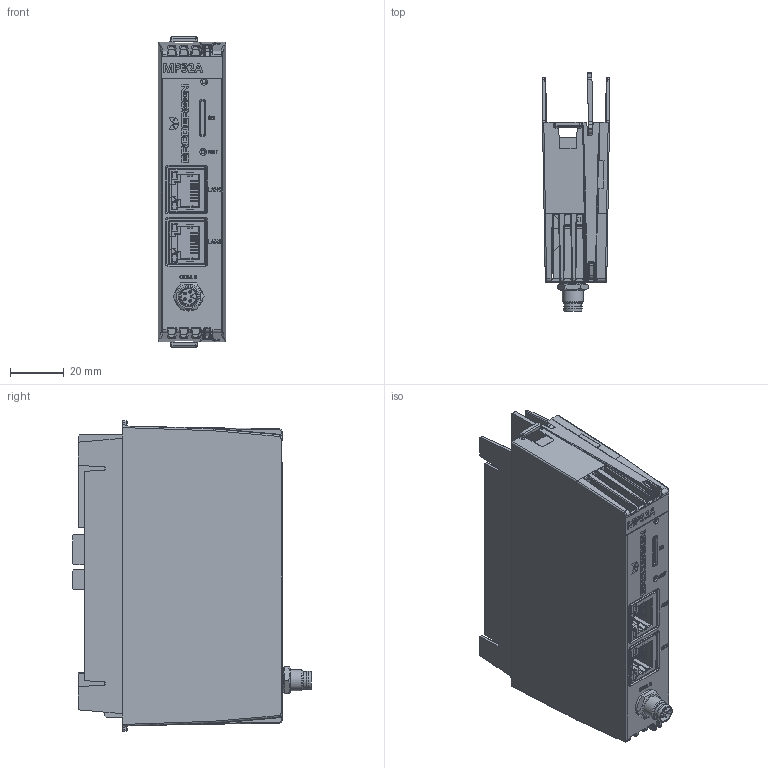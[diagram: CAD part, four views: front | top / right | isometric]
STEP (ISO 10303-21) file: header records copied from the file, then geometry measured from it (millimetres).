
FILE_DESCRIPTION(/* description */ (''),/* implementation_level */ '2;1');
FILE_NAME(/* name */ 'C:\Users\Public\Documents\Autodesk\Inventor 2023\MP32A_REVD_Simplified.stp',/* time_stamp */ '2024-11-20T09:37:03+01:00',/* author */ ('asho'),/* organization */ (''),/* preprocessor_version */ 'ST-DEVELOPER v19',/* originating_system */ 'Autodesk Inventor 2023',/* authorisation */ '');
FILE_SCHEMA (('AUTOMOTIVE_DESIGN { 1 0 10303 214 3 1 1 }'));
Products named in the file (1): MP32A_REVD_Simplified
Bounding box: 24.95 x 88.9 x 115.5 mm (x, y, z)
Volume: 91226.6 mm3; surface area: 59738.1 mm2
Topology: 1 solids, 2 shells, 3761 faces, 10415 edges, 6691 vertices
Faces by surface type: plane 2528, cylinder 756, bspline 341, torus 54, sphere 48, cone 34
Full cylindrical faces by diameter (mm): 0.3 x3, 0.5 x2, 0.75 x2, 0.8 x11, 0.9 x20, 1 x8, 1.02 x8, 1.1 x1, 1.3 x4, 1.6 x1, 1.7 x4, 2.5 x1, 3 x2, 5.8 x1, 6.5 x1, 6.9 x1, 6.917 x1, 7.896 x1, 8.416 x2, 9 x1, 10.69 x1
Entity records: 133260 total; most frequent: CARTESIAN_POINT 34165, ORIENTED_EDGE 20716, DIRECTION 18572, EDGE_CURVE 10358, LINE 7786, VECTOR 7786, VERTEX_POINT 6691, AXIS2_PLACEMENT_3D 5393
